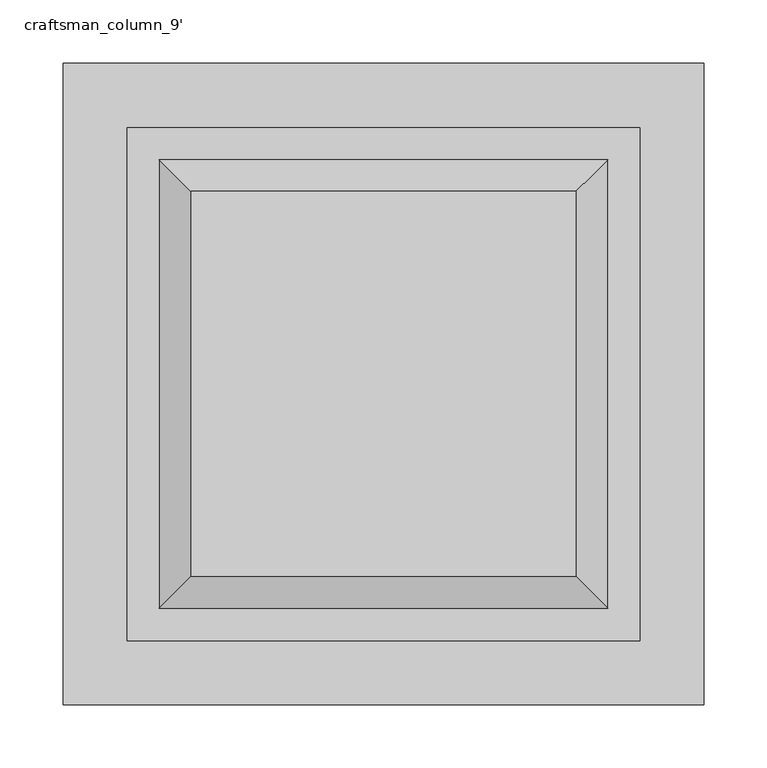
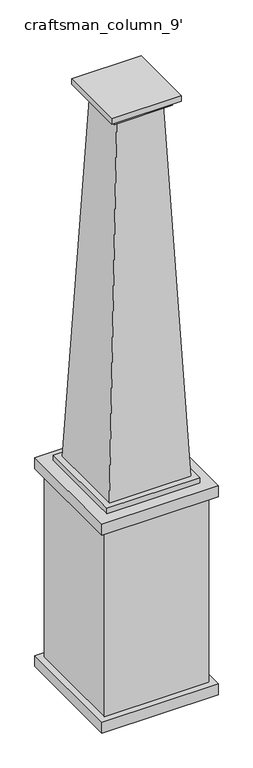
"""IFC4 building model written with IfcOpenShell, lengths in millimetres: column geometry, craftsman_column_9' : craftsman column download."""

from ifc_helpers import new_model, si_unit, frame, origin, place, context, project, spatial, polyline, outline, extrude, faceted_brep, source, transform, mapped, element, save


def craftsman_column_9_ca342625(model_context):
    return source(origin(), model_context, "Body", "SolidModel", [
        extrude(outline(polyline([(254.0, -254.0), (-254.0, -254.0), (-254.0, 254.0), (254.0, 254.0), (254.0, -254.0)])), frame((0.0, 0.0, 1066.8), z_axis=(0.0, 0.0, 1.0), x_axis=(1.0, 0.0, 0.0)), (0.0, 0.0, 1.0), 50.8),
        extrude(outline(polyline([(254.0, -254.0), (-254.0, -254.0), (-254.0, 254.0), (254.0, 254.0), (254.0, -254.0)])), frame((0.0, 0.0, 1981.2), z_axis=(0.0, 0.0, 1.0), x_axis=(1.0, 0.0, 0.0)), (0.0, 0.0, 1.0), 50.8),
        extrude(outline(polyline([(-152.4, -152.4), (-152.4, 152.4), (152.4, 152.4), (152.4, -152.4), (-152.4, -152.4)])), frame((0.0, 0.0, 3784.6), z_axis=(0.0, 0.0, 1.0), x_axis=(1.0, 0.0, 0.0)), (0.0, 0.0, 1.0), 25.4),
        extrude(outline(polyline([(203.2, -203.2), (-203.2, -203.2), (-203.2, 203.2), (203.2, 203.2), (203.2, -203.2)])), frame((0.0, 0.0, 2032.0), z_axis=(0.0, 0.0, 1.0), x_axis=(1.0, 0.0, 0.0)), (0.0, 0.0, 1.0), 25.4),
        extrude(outline(polyline([(127.0, -127.0), (-127.0, -127.0), (-127.0, 127.0), (127.0, 127.0), (127.0, -127.0)])), frame((0.0, 0.0, 3759.2), z_axis=(0.0, 0.0, 1.0), x_axis=(1.0, 0.0, 0.0)), (0.0, 0.0, 1.0), 25.4),
        extrude(outline(polyline([(228.6, 228.6), (228.6, -228.6), (-228.6, -228.6), (-228.6, 228.6), (228.6, 228.6)])), frame((0.0, 0.0, 1117.6), z_axis=(0.0, 0.0, 1.0), x_axis=(1.0, 0.0, 0.0)), (0.0, 0.0, 1.0), 863.6),
        faceted_brep([(101.6, -101.6, 3759.2), (101.6, 101.6, 3759.2), (-101.6, 101.6, 3759.2), (-101.6, -101.6, 3759.2), (177.8, -177.8, 2057.4), (-177.8, -177.8, 2057.4), (-177.8, 177.8, 2057.4), (177.8, 177.8, 2057.4)], [[[0, 1, 2, 3]], [[4, 5, 6, 7]], [[4, 0, 3, 5]], [[5, 3, 2, 6]], [[6, 2, 1, 7]], [[7, 1, 0, 4]]]),
    ])


if __name__ == "__main__":
    model = new_model("IFC4")
    model_context = context("Model", 3, world=origin())
    ifc_project = project(units=[si_unit("LENGTHUNIT", "METRE", prefix="MILLI")], contexts=[model_context])
    site = spatial("IfcSite", under=ifc_project)
    building = spatial("IfcBuilding", under=site)
    placement = place(None, origin())
    craftsman_column_9_shape = craftsman_column_9_ca342625(model_context)
    element("IfcColumn", 1, ObjectType="craftsman_column_9' : craftsman column download", at=placement, inside=building, context=model_context, shape_type="MappedRepresentation", body=[
        mapped(craftsman_column_9_shape, transform((0.0, 0.0, 0.0), x_axis=(1.0, 0.0, 0.0), y_axis=(0.0, 1.0, 0.0), z_axis=(0.0, 0.0, 1.0))),
    ])
    save(model, "model.ifc")
